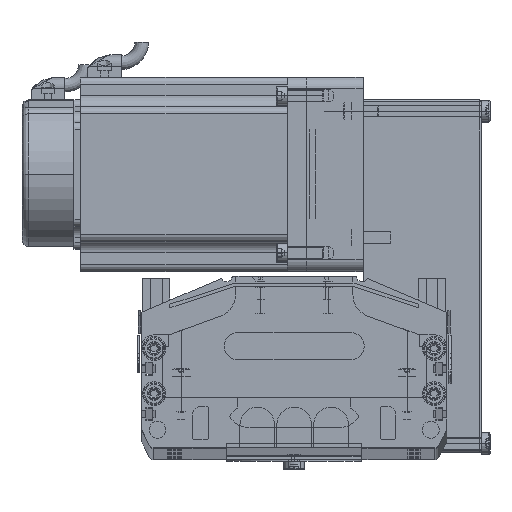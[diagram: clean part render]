
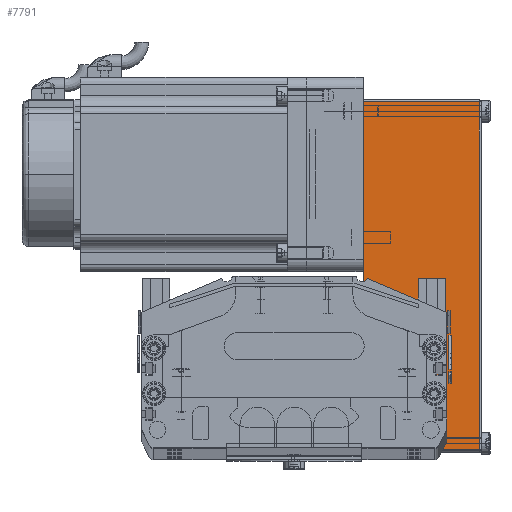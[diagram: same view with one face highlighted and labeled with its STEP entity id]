
A CAD part, top view. The second image highlights one B-rep face of the part: STEP entity #7791.
In plain terms, the highlighted planar face has unit normal (0, 0, 1) as drawn and (0, -1, 0) by its records, which use the part's own axes.
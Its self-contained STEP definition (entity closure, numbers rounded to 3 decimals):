
#7636 = EDGE_CURVE ( 'NONE', #7875, #7793, #37559, .T. ) ;
#7665 = VERTEX_POINT ( 'NONE', #37359 ) ;
#7690 = ORIENTED_EDGE ( 'NONE', *, *, #7636, .T. ) ;
#7692 = EDGE_CURVE ( 'NONE', #7793, #7902, #35613, .T. ) ;
#7699 = EDGE_LOOP ( 'NONE', ( #7792, #7690, #7778, #7784 ) ) ;
#7778 = ORIENTED_EDGE ( 'NONE', *, *, #7692, .T. ) ;
#7784 = ORIENTED_EDGE ( 'NONE', *, *, #7814, .T. ) ;
#7791 = ADVANCED_FACE ( 'NONE', ( #38107 ), #38115, .F. ) ;
#7792 = ORIENTED_EDGE ( 'NONE', *, *, #7859, .T. ) ;
#7793 = VERTEX_POINT ( 'NONE', #38110 ) ;
#7814 = EDGE_CURVE ( 'NONE', #7902, #7665, #38214, .T. ) ;
#7859 = EDGE_CURVE ( 'NONE', #7665, #7875, #38323, .T. ) ;
#7875 = VERTEX_POINT ( 'NONE', #38737 ) ;
#7902 = VERTEX_POINT ( 'NONE', #38576 ) ;
#35610 = DIRECTION ( 'NONE',  ( -1., 0., 0. ) ) ;
#35611 = CARTESIAN_POINT ( 'NONE',  ( 32., -40., 51.5 ) ) ;
#35613 = LINE ( 'NONE', #35611, #35619 ) ;
#35619 = VECTOR ( 'NONE', #35610, 1000. ) ;
#37359 = CARTESIAN_POINT ( 'NONE',  ( -123.2, -40., 0. ) ) ;
#37559 = LINE ( 'NONE', #37710, #37708 ) ;
#37707 = DIRECTION ( 'NONE',  ( 0., 0., 1. ) ) ;
#37708 = VECTOR ( 'NONE', #37707, 1000. ) ;
#37710 = CARTESIAN_POINT ( 'NONE',  ( 31., -40., 52.5 ) ) ;
#38078 = AXIS2_PLACEMENT_3D ( 'NONE', #38124, #38260, #38258 ) ;
#38107 = FACE_OUTER_BOUND ( 'NONE', #7699, .T. ) ;
#38110 = CARTESIAN_POINT ( 'NONE',  ( 31., -40., 51.5 ) ) ;
#38115 = PLANE ( 'NONE',  #38078 ) ;
#38124 = CARTESIAN_POINT ( 'NONE',  ( 32., -40., 52.5 ) ) ;
#38209 = DIRECTION ( 'NONE',  ( 0., 0., -1. ) ) ;
#38211 = VECTOR ( 'NONE', #38209, 1000. ) ;
#38212 = CARTESIAN_POINT ( 'NONE',  ( -123.2, -40., 52.5 ) ) ;
#38214 = LINE ( 'NONE', #38212, #38211 ) ;
#38258 = DIRECTION ( 'NONE',  ( -1., 0., 0. ) ) ;
#38260 = DIRECTION ( 'NONE',  ( 0., 1., 0. ) ) ;
#38318 = DIRECTION ( 'NONE',  ( 1., 0., 0. ) ) ;
#38319 = VECTOR ( 'NONE', #38318, 1000. ) ;
#38321 = CARTESIAN_POINT ( 'NONE',  ( 32., -40., 0. ) ) ;
#38323 = LINE ( 'NONE', #38321, #38319 ) ;
#38576 = CARTESIAN_POINT ( 'NONE',  ( -123.2, -40., 51.5 ) ) ;
#38737 = CARTESIAN_POINT ( 'NONE',  ( 31., -40., 0. ) ) ;
